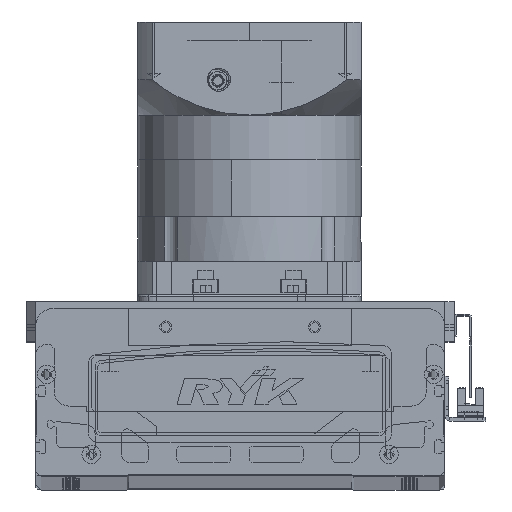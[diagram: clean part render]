
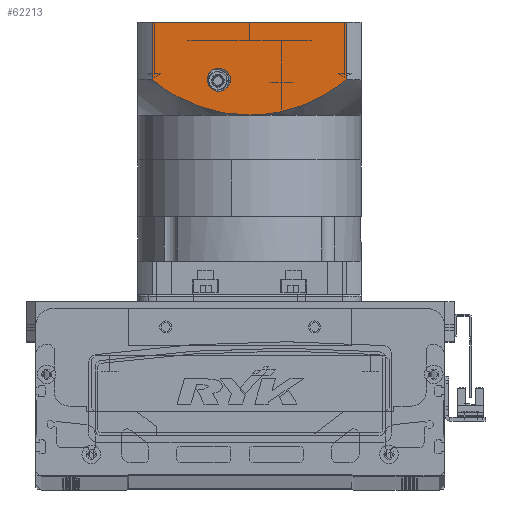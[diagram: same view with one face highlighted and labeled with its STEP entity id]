
A CAD part, top view. The second image highlights one B-rep face of the part: STEP entity #62213.
In plain terms, the highlighted planar face has unit normal (0, 0, 1) as drawn and (0, -1, 0) by its records, which use the part's own axes.
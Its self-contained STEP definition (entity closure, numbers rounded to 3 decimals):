
#128 = EDGE_CURVE ( 'NONE', #39820, #75732, #19548, .T. ) ;
#1684 = CARTESIAN_POINT ( 'NONE',  ( -60., -60., -150.5 ) ) ;
#2928 = CARTESIAN_POINT ( 'NONE',  ( 50.338, -60., -117.969 ) ) ;
#2991 = B_SPLINE_CURVE_WITH_KNOTS ( 'NONE', 3,
 ( #58901, #46939, #28047, #39946, #8267, #52767, #8807, #53323, #14694, #9905, #35510, #48295, #16362, #73073, #35780, #22498, #23055, #80030 ),
 .UNSPECIFIED., .F., .F.,
 ( 4, 2, 2, 2, 2, 2, 2, 2, 4 ),
 ( 0., 0.014, 0.018, 0.021, 0.028, 0.042, 0.046, 0.05, 0.057 ),
 .UNSPECIFIED. ) ;
#5475 = EDGE_CURVE ( 'NONE', #50304, #51193, #63832, .T. ) ;
#8267 = CARTESIAN_POINT ( 'NONE',  ( -38.51, -60., -110.207 ) ) ;
#8807 = CARTESIAN_POINT ( 'NONE',  ( -35.342, -60., -108.587 ) ) ;
#8809 = CARTESIAN_POINT ( 'NONE',  ( 44.553, -60., -113.817 ) ) ;
#9362 = CARTESIAN_POINT ( 'NONE',  ( 52.156, -60., -119.5 ) ) ;
#9905 = CARTESIAN_POINT ( 'NONE',  ( -23.319, -60., -103.777 ) ) ;
#13443 = CIRCLE ( 'NONE', #38852, 6.25 ) ;
#13557 = DIRECTION ( 'NONE',  ( 0., 1., 0. ) ) ;
#14694 = CARTESIAN_POINT ( 'NONE',  ( -29.939, -60., -106.183 ) ) ;
#15023 = VERTEX_POINT ( 'NONE', #67873 ) ;
#16065 = CARTESIAN_POINT ( 'NONE',  ( 16.5, -60., -113.25 ) ) ;
#16362 = CARTESIAN_POINT ( 'NONE',  ( -11.825, -60., -101.356 ) ) ;
#16366 = CARTESIAN_POINT ( 'NONE',  ( 42.555, -60., -112.543 ) ) ;
#16839 = CARTESIAN_POINT ( 'NONE',  ( -52.156, -60., -119.5 ) ) ;
#16984 = AXIS2_PLACEMENT_3D ( 'NONE', #20616, #27265, #20353 ) ;
#19548 = LINE ( 'NONE', #57785, #38375 ) ;
#20000 = DIRECTION ( 'NONE',  ( 0., 0., -1. ) ) ;
#20246 = ORIENTED_EDGE ( 'NONE', *, *, #74442, .F. ) ;
#20353 = DIRECTION ( 'NONE',  ( 1., 0., 0. ) ) ;
#20616 = CARTESIAN_POINT ( 'NONE',  ( -60., -60., -150.5 ) ) ;
#20704 = VECTOR ( 'NONE', #52889, 1000. ) ;
#21130 = EDGE_CURVE ( 'NONE', #75732, #37267, #2991, .T. ) ;
#21324 = CARTESIAN_POINT ( 'NONE',  ( 52.156, -60., -119.5 ) ) ;
#22498 = CARTESIAN_POINT ( 'NONE',  ( -4.747, -60., -100.604 ) ) ;
#22513 = VECTOR ( 'NONE', #26651, 1000. ) ;
#22978 = ORIENTED_EDGE ( 'NONE', *, *, #128, .F. ) ;
#23055 = CARTESIAN_POINT ( 'NONE',  ( -2.376, -60., -100.5 ) ) ;
#23314 = DIRECTION ( 'NONE',  ( 0., 1., 0. ) ) ;
#23488 = LINE ( 'NONE', #26927, #22513 ) ;
#23490 = CARTESIAN_POINT ( 'NONE',  ( 16.5, -60., -125.75 ) ) ;
#25895 = EDGE_CURVE ( 'NONE', #15023, #55224, #23488, .T. ) ;
#26146 = DIRECTION ( 'NONE',  ( 0., 0., 1. ) ) ;
#26651 = DIRECTION ( 'NONE',  ( 0., 0., 1. ) ) ;
#26927 = CARTESIAN_POINT ( 'NONE',  ( 52.156, -60., -150.5 ) ) ;
#27265 = DIRECTION ( 'NONE',  ( 0., -1., 0. ) ) ;
#28047 = CARTESIAN_POINT ( 'NONE',  ( -44.656, -60., -113.73 ) ) ;
#28052 = CARTESIAN_POINT ( 'NONE',  ( 45.542, -60., -114.478 ) ) ;
#28862 = CARTESIAN_POINT ( 'NONE',  ( 23.329, -60., -103.886 ) ) ;
#29655 = CARTESIAN_POINT ( 'NONE',  ( 16.5, -60., -119.5 ) ) ;
#33518 = EDGE_CURVE ( 'NONE', #51193, #50304, #13443, .T. ) ;
#33601 = FACE_OUTER_BOUND ( 'NONE', #57554, .T. ) ;
#33712 = ORIENTED_EDGE ( 'NONE', *, *, #69841, .T. ) ;
#34961 = CARTESIAN_POINT ( 'NONE',  ( 18.739, -60., -102.681 ) ) ;
#35243 = CARTESIAN_POINT ( 'NONE',  ( 15.267, -60., -101.938 ) ) ;
#35510 = CARTESIAN_POINT ( 'NONE',  ( -18.792, -60., -102.562 ) ) ;
#35513 = CARTESIAN_POINT ( 'NONE',  ( 9.454, -60., -100.914 ) ) ;
#35780 = CARTESIAN_POINT ( 'NONE',  ( -8.294, -60., -100.916 ) ) ;
#37218 = ORIENTED_EDGE ( 'NONE', *, *, #25895, .T. ) ;
#37267 = VERTEX_POINT ( 'NONE', #65265 ) ;
#37543 = LINE ( 'NONE', #1684, #20704 ) ;
#38375 = VECTOR ( 'NONE', #26146, 1000. ) ;
#38852 = AXIS2_PLACEMENT_3D ( 'NONE', #29655, #23314, #54971 ) ;
#39820 = VERTEX_POINT ( 'NONE', #50601 ) ;
#39946 = CARTESIAN_POINT ( 'NONE',  ( -39.546, -60., -110.776 ) ) ;
#40775 = CARTESIAN_POINT ( 'NONE',  ( 4.753, -60., -100.5 ) ) ;
#41054 = CARTESIAN_POINT ( 'NONE',  ( 36.444, -60., -108.986 ) ) ;
#42913 = AXIS2_PLACEMENT_3D ( 'NONE', #71116, #13557, #20000 ) ;
#45956 = ORIENTED_EDGE ( 'NONE', *, *, #33518, .T. ) ;
#46939 = CARTESIAN_POINT ( 'NONE',  ( -48.52, -60., -116.438 ) ) ;
#46944 = CARTESIAN_POINT ( 'NONE',  ( 32.196, -60., -107.007 ) ) ;
#47467 = CARTESIAN_POINT ( 'NONE',  ( 16.426, -60., -102.169 ) ) ;
#48295 = CARTESIAN_POINT ( 'NONE',  ( -12.993, -60., -101.537 ) ) ;
#49655 = B_SPLINE_CURVE_WITH_KNOTS ( 'NONE', 3,
 ( #79492, #40775, #35513, #35243, #47467, #34961, #66958, #28862, #80033, #46944, #41054, #79762, #16366, #8809, #28052, #78940, #2928, #9362 ),
 .UNSPECIFIED., .F., .F.,
 ( 4, 2, 2, 2, 2, 2, 2, 2, 4 ),
 ( 0., 0.014, 0.018, 0.021, 0.028, 0.042, 0.046, 0.05, 0.057 ),
 .UNSPECIFIED. ) ;
#50304 = VERTEX_POINT ( 'NONE', #23490 ) ;
#50601 = CARTESIAN_POINT ( 'NONE',  ( -52.156, -60., -150.5 ) ) ;
#51193 = VERTEX_POINT ( 'NONE', #16065 ) ;
#52767 = CARTESIAN_POINT ( 'NONE',  ( -36.409, -60., -109.113 ) ) ;
#52889 = DIRECTION ( 'NONE',  ( 1., 0., 0. ) ) ;
#53119 = ORIENTED_EDGE ( 'NONE', *, *, #21130, .F. ) ;
#53323 = CARTESIAN_POINT ( 'NONE',  ( -32.118, -60., -107.084 ) ) ;
#54971 = DIRECTION ( 'NONE',  ( 0., 0., -1. ) ) ;
#55224 = VERTEX_POINT ( 'NONE', #21324 ) ;
#57554 = EDGE_LOOP ( 'NONE', ( #22978, #33712, #37218, #20246, #53119 ) ) ;
#57785 = CARTESIAN_POINT ( 'NONE',  ( -52.156, -60., -97.5 ) ) ;
#58656 = PLANE ( 'NONE',  #16984 ) ;
#58901 = CARTESIAN_POINT ( 'NONE',  ( -52.156, -60., -119.5 ) ) ;
#62213 = ADVANCED_FACE ( 'NONE', ( #33601, #70396 ), #58656, .T. ) ;
#63832 = CIRCLE ( 'NONE', #42913, 6.25 ) ;
#65265 = CARTESIAN_POINT ( 'NONE',  ( 0., -60., -100.5 ) ) ;
#66958 = CARTESIAN_POINT ( 'NONE',  ( 19.894, -60., -102.964 ) ) ;
#67873 = CARTESIAN_POINT ( 'NONE',  ( 52.156, -60., -150.5 ) ) ;
#69175 = EDGE_LOOP ( 'NONE', ( #70750, #45956 ) ) ;
#69841 = EDGE_CURVE ( 'NONE', #39820, #15023, #37543, .T. ) ;
#70396 = FACE_BOUND ( 'NONE', #69175, .T. ) ;
#70750 = ORIENTED_EDGE ( 'NONE', *, *, #5475, .T. ) ;
#71116 = CARTESIAN_POINT ( 'NONE',  ( 16.5, -60., -119.5 ) ) ;
#73073 = CARTESIAN_POINT ( 'NONE',  ( -9.477, -60., -101.046 ) ) ;
#74442 = EDGE_CURVE ( 'NONE', #37267, #55224, #49655, .T. ) ;
#75732 = VERTEX_POINT ( 'NONE', #16839 ) ;
#78940 = CARTESIAN_POINT ( 'NONE',  ( 48.457, -60., -116.522 ) ) ;
#79492 = CARTESIAN_POINT ( 'NONE',  ( 0., -60., -100.5 ) ) ;
#79762 = CARTESIAN_POINT ( 'NONE',  ( 41.545, -60., -111.931 ) ) ;
#80030 = CARTESIAN_POINT ( 'NONE',  ( 0., -60., -100.5 ) ) ;
#80033 = CARTESIAN_POINT ( 'NONE',  ( 25.577, -60., -104.596 ) ) ;
